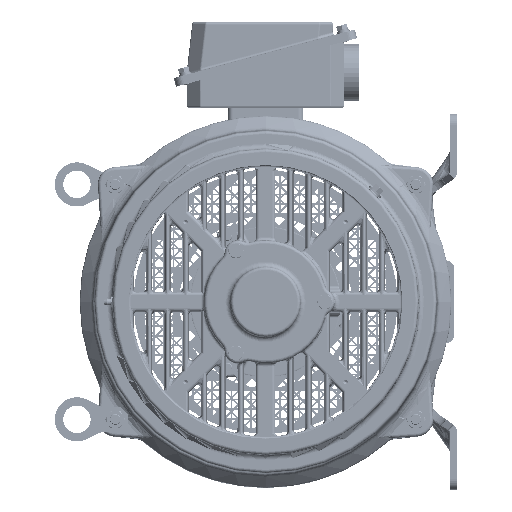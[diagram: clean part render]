
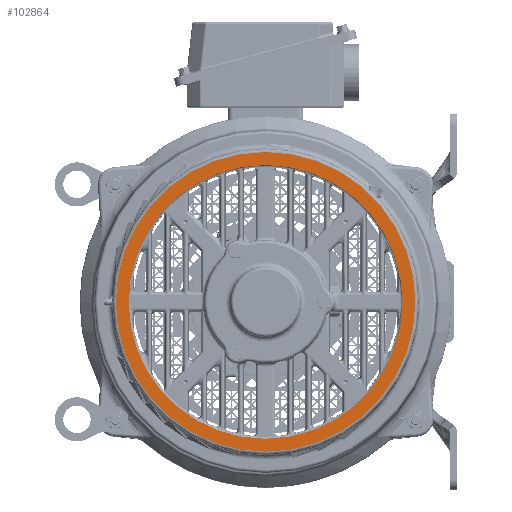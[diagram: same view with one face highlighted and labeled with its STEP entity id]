
A CAD part, left-side view. The second image highlights one B-rep face of the part: STEP entity #102864.
In plain terms, the highlighted planar face has unit normal (-1, 0, 0).
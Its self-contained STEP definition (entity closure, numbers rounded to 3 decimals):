
#327 = ORIENTED_EDGE ( 'NONE', *, *, #472233, .F. ) ;
#10235 = CARTESIAN_POINT ( 'NONE',  ( -74., 0., 0. ) ) ;
#11903 = AXIS2_PLACEMENT_3D ( 'NONE', #207778, #321024, #422356 ) ;
#14586 = CARTESIAN_POINT ( 'NONE',  ( -74., 0., -127. ) ) ;
#41804 = VERTEX_POINT ( 'NONE', #231234 ) ;
#63066 = CARTESIAN_POINT ( 'NONE',  ( -74., 0., 0. ) ) ;
#68115 = CARTESIAN_POINT ( 'NONE',  ( -74., 0., 0. ) ) ;
#75128 = DIRECTION ( 'NONE',  ( 0., 0., 1. ) ) ;
#84893 = DIRECTION ( 'NONE',  ( -1., 0., 0. ) ) ;
#102864 = ADVANCED_FACE ( 'NONE', ( #427068, #239257 ), #390900, .T. ) ;
#121935 = VERTEX_POINT ( 'NONE', #14586 ) ;
#137553 = ORIENTED_EDGE ( 'NONE', *, *, #161471, .T. ) ;
#137704 = DIRECTION ( 'NONE',  ( 0., 0., 1. ) ) ;
#145549 = CIRCLE ( 'NONE', #476434, 127. ) ;
#152115 = DIRECTION ( 'NONE',  ( -1., 0., 0. ) ) ;
#161471 = EDGE_CURVE ( 'NONE', #41804, #306878, #171280, .T. ) ;
#171280 = CIRCLE ( 'NONE', #232921, 139. ) ;
#203410 = CIRCLE ( 'NONE', #349632, 127. ) ;
#206148 = EDGE_CURVE ( 'NONE', #306878, #41804, #440295, .T. ) ;
#207778 = CARTESIAN_POINT ( 'NONE',  ( -74., -127., 0. ) ) ;
#231234 = CARTESIAN_POINT ( 'NONE',  ( -74., 0., -139. ) ) ;
#232921 = AXIS2_PLACEMENT_3D ( 'NONE', #68115, #321064, #470388 ) ;
#233842 = EDGE_CURVE ( 'NONE', #289004, #121935, #203410, .T. ) ;
#239257 = FACE_BOUND ( 'NONE', #420685, .T. ) ;
#265974 = ORIENTED_EDGE ( 'NONE', *, *, #206148, .T. ) ;
#289004 = VERTEX_POINT ( 'NONE', #460298 ) ;
#306878 = VERTEX_POINT ( 'NONE', #367652 ) ;
#306975 = ORIENTED_EDGE ( 'NONE', *, *, #233842, .F. ) ;
#320805 = DIRECTION ( 'NONE',  ( -1., 0., 0. ) ) ;
#321024 = DIRECTION ( 'NONE',  ( -1., 0., 0. ) ) ;
#321064 = DIRECTION ( 'NONE',  ( -1., 0., 0. ) ) ;
#349632 = AXIS2_PLACEMENT_3D ( 'NONE', #366635, #152115, #75128 ) ;
#366635 = CARTESIAN_POINT ( 'NONE',  ( -74., 0., 0. ) ) ;
#367652 = CARTESIAN_POINT ( 'NONE',  ( -74., 0., 139. ) ) ;
#378763 = AXIS2_PLACEMENT_3D ( 'NONE', #63066, #320805, #137704 ) ;
#390900 = PLANE ( 'NONE',  #11903 ) ;
#420685 = EDGE_LOOP ( 'NONE', ( #306975, #327 ) ) ;
#422356 = DIRECTION ( 'NONE',  ( 0., 0., 1. ) ) ;
#427068 = FACE_OUTER_BOUND ( 'NONE', #434284, .T. ) ;
#434284 = EDGE_LOOP ( 'NONE', ( #265974, #137553 ) ) ;
#440295 = CIRCLE ( 'NONE', #378763, 139. ) ;
#451104 = DIRECTION ( 'NONE',  ( 0., 0., 1. ) ) ;
#460298 = CARTESIAN_POINT ( 'NONE',  ( -74., 0., 127. ) ) ;
#470388 = DIRECTION ( 'NONE',  ( 0., 0., 1. ) ) ;
#472233 = EDGE_CURVE ( 'NONE', #121935, #289004, #145549, .T. ) ;
#476434 = AXIS2_PLACEMENT_3D ( 'NONE', #10235, #84893, #451104 ) ;
